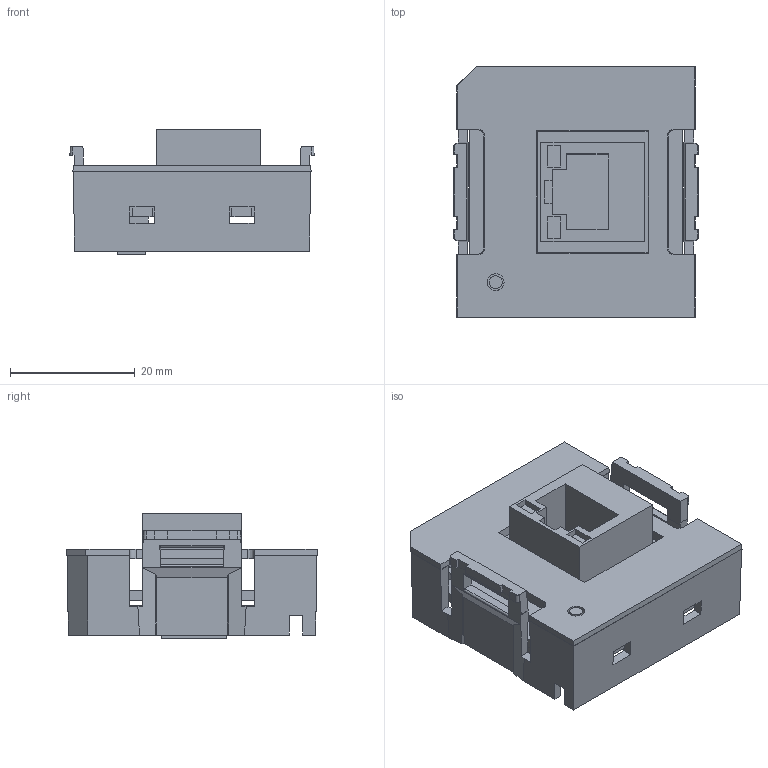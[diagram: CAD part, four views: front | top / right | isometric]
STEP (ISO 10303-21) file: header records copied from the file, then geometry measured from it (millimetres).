
FILE_DESCRIPTION (( 'STEP AP214' ), '1' );
FILE_NAME ('K606 BD-CAN.STEP', '2022-07-04T06:41:32', ( '' ), ( '' ), 'SwSTEP 2.0', 'SolidWorks 2020', '' );
FILE_SCHEMA (( 'AUTOMOTIVE_DESIGN' ));
Length unit declared in the file: millimetre
Products named in the file (1): K606 BD-CAN
Bounding box: 39.23 x 40.24 x 20 mm (x, y, z)
Volume: 8463.1 mm3; surface area: 11164.1 mm2
Topology: 4 solids, 4 shells, 258 faces, 741 edges, 492 vertices
Faces by surface type: plane 211, cylinder 34, cone 9, bspline 4
Entity records: 11416 total; most frequent: CARTESIAN_POINT 1630, ORIENTED_EDGE 1482, DIRECTION 1311, EDGE_CURVE 741, VECTOR 645, LINE 645, VERTEX_POINT 492, AXIS2_PLACEMENT_3D 333
